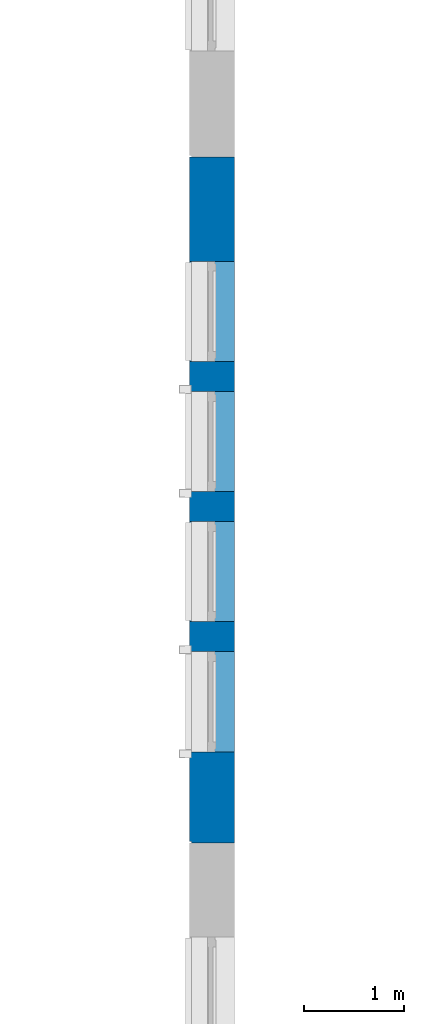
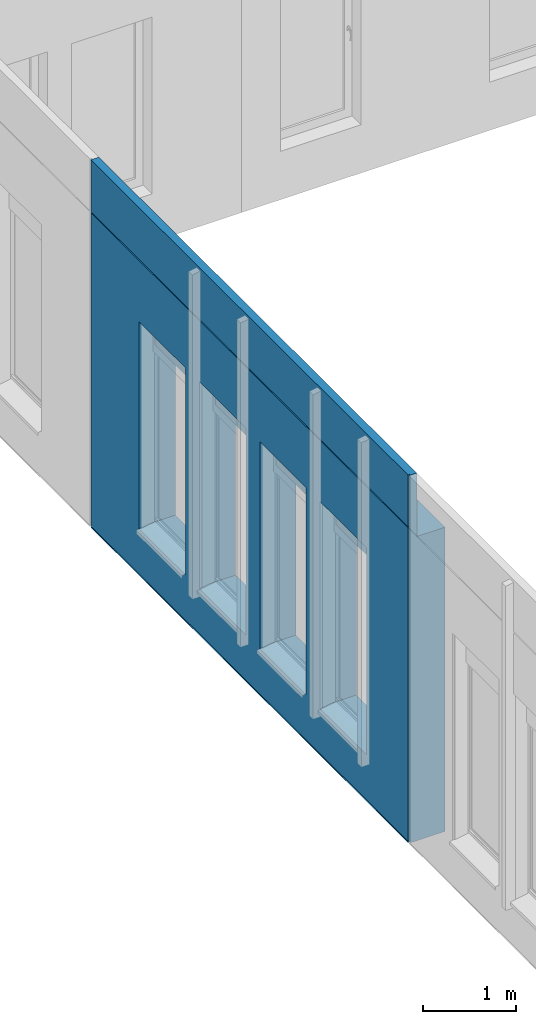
# One storey, part 9 of 33: 1 wall, 7 openings.
"""IFC2X3 building model written with IfcOpenShell, lengths in millimetres."""

import ifcopenshell
import ifcopenshell.guid

model = None  # the IFC model being written
_history = None  # IfcOwnerHistory: only IFC2X3 demands one
_inside = {}  # id of a spatial element -> (the spatial element, [elements in it])
_under = {}  # id of a project, library or spatial element -> (it, [spatial elements below it])
_declared = {}  # id of a project -> (the project, [libraries it declares])
_typed = {}  # id of a type object -> (the type object, [elements of that type])
_made_of = {}  # id of a material, layer set ... -> (it, [elements and type objects made of it])


def new_model(schema):
    """Start an empty IFC model of exactly this schema.

    Asked for "IFC4X3", IfcOpenShell would pick the latest addendum, in which some entities
    have other attributes; the version numbers below select the first issue.
    IFC2X3 requires an IfcOwnerHistory on every rooted entity: one is made here for all.
    """
    global model, _history
    if schema == "IFC4X3":
        model = ifcopenshell.file(schema_version=(4, 3, 0, 0))
    else:
        model = ifcopenshell.file(schema=schema)
    _inside.clear()
    _under.clear()
    _declared.clear()
    _typed.clear()
    _made_of.clear()
    _history = None
    if model.schema == "IFC2X3":
        org = make("IfcOrganization", Name="unknown")
        user = make(
            "IfcPersonAndOrganization",
            ThePerson=make("IfcPerson", FamilyName="unknown"),
            TheOrganization=org,
        )
        app = make(
            "IfcApplication",
            ApplicationDeveloper=org,
            Version="unknown",
            ApplicationFullName="unknown",
            ApplicationIdentifier="unknown",
        )
        _history = make(
            "IfcOwnerHistory",
            OwningUser=user,
            OwningApplication=app,
            ChangeAction="ADDED",
            CreationDate=0,
        )
    return model


def make(cls, **values):
    """One entity of the class cls with the attributes given. An attribute that is None is left unset."""
    return model.create_entity(
        cls, **{name: value for name, value in values.items() if value is not None}
    )


def entity(cls, *values):
    """Any entity or typed value of the class cls, its attributes in the order of the schema. None: left unset."""
    e = model.create_entity(cls)
    for i, value in enumerate(values):
        if value is not None:
            e[i] = value
    return e


def rooted(cls, **values):
    """An entity with a GlobalId (a new one), such as an element, a storey or a relation."""
    return make(cls, GlobalId=ifcopenshell.guid.new(), OwnerHistory=_history, **values)


def si_unit(unit_type, name, prefix=None):
    """IfcSIUnit, for example si_unit("LENGTHUNIT", "METRE", prefix="MILLI")."""
    return make("IfcSIUnit", UnitType=unit_type, Prefix=prefix, Name=name)


def converted_unit(unit_type, name, factor, base, dimensions=None, offset=None):
    """IfcConversionBasedUnit, such as the inch: factor (a typed value) times the base unit."""
    return make(
        "IfcConversionBasedUnit"
        if offset is None
        else "IfcConversionBasedUnitWithOffset",
        ConversionOffset=offset,
        Dimensions=None
        if dimensions is None
        else entity("IfcDimensionalExponents", *dimensions),
        UnitType=unit_type,
        Name=name,
        ConversionFactor=make(
            "IfcMeasureWithUnit", ValueComponent=factor, UnitComponent=base
        ),
    )


def derived_unit(unit_type, elements):
    """IfcDerivedUnit: a product of units, each with its exponent."""
    return make(
        "IfcDerivedUnit",
        Elements=[
            make("IfcDerivedUnitElement", Unit=unit, Exponent=power)
            for unit, power in elements
        ],
        UnitType=unit_type,
    )


def assignment(units):
    """IfcUnitAssignment: the units of a project."""
    return None if units is None else make("IfcUnitAssignment", Units=units)


def point(xyz):
    """IfcCartesianPoint."""
    return None if xyz is None else make("IfcCartesianPoint", Coordinates=xyz)


def direction(xyz):
    """IfcDirection."""
    return None if xyz is None else make("IfcDirection", DirectionRatios=xyz)


def frame(location, z_axis=None, x_axis=None):
    """IfcAxis2Placement3D, a coordinate frame: its origin and axes. An axis left out is left unset."""
    return make(
        "IfcAxis2Placement3D",
        Location=point(location),
        Axis=direction(z_axis),
        RefDirection=direction(x_axis),
    )


def frame_2d(location, x_axis=None):
    """IfcAxis2Placement2D, a coordinate frame in the plane: its origin and x axis."""
    return make(
        "IfcAxis2Placement2D", Location=point(location), RefDirection=direction(x_axis)
    )


def origin():
    """The frame at (0, 0, 0) with its axes left unset."""
    return frame((0.0, 0.0, 0.0))


def place(relative_to, where):
    """IfcLocalPlacement: puts the frame where relative to a parent placement (None: the world)."""
    return make(
        "IfcLocalPlacement", PlacementRelTo=relative_to, RelativePlacement=where
    )


def context(
    kind, dimensions, precision=None, world=None, true_north=None, identifier=None
):
    """IfcGeometricRepresentationContext, for example the 3D "Model" context."""
    return make(
        "IfcGeometricRepresentationContext",
        ContextIdentifier=identifier,
        ContextType=kind,
        CoordinateSpaceDimension=dimensions,
        Precision=precision,
        WorldCoordinateSystem=world,
        TrueNorth=true_north,
    )


def subcontext(parent, identifier, kind, view, scale=None):
    """IfcGeometricRepresentationSubContext, for example "Body" below "Model"."""
    return make(
        "IfcGeometricRepresentationSubContext",
        ContextIdentifier=identifier,
        ContextType=kind,
        ParentContext=parent,
        TargetScale=scale,
        TargetView=view,
    )


def project(units=None, contexts=None):
    """IfcProject with its units and contexts."""
    return rooted(
        "IfcProject",
        Name="project",
        RepresentationContexts=contexts,
        UnitsInContext=assignment(units),
    )


def spatial(cls, under=None, at=None, **own):
    """A site, building, storey or space (cls), placed at a placement, below another one or the project."""
    s = rooted(cls, ObjectPlacement=at, **own)
    if under is not None:
        _under.setdefault(under.id(), (under, []))[1].append(s)
    return s


def polyline(points):
    """IfcPolyline through the points."""
    return make("IfcPolyline", Points=[point(p) for p in points])


def profile(cls, at=None, kind="AREA", **sizes):
    """A parametric profile (cls). Its sizes go by their IFC names, for example OverallWidth=200.0."""
    return make(cls, ProfileType=kind, Position=at, **sizes)


def rectangle(**sizes):
    """IfcRectangleProfileDef."""
    return profile("IfcRectangleProfileDef", **sizes)


def extrude(swept, where, along, depth):
    """IfcExtrudedAreaSolid: the profile swept, set in the frame where, extruded along a direction by depth."""
    return make(
        "IfcExtrudedAreaSolid",
        SweptArea=swept,
        Position=where,
        ExtrudedDirection=direction(along),
        Depth=depth,
    )


def clip(a, b, op="DIFFERENCE"):
    """IfcBooleanClippingResult: the solid a cut by the half space b."""
    return make(
        "IfcBooleanClippingResult", Operator=op, FirstOperand=a, SecondOperand=b
    )


def bounded_halfspace(plane, agree, where, boundary):
    """IfcPolygonalBoundedHalfSpace: a half space limited to a polygon's prism."""
    return make(
        "IfcPolygonalBoundedHalfSpace",
        BaseSurface=make("IfcPlane", Position=plane),
        AgreementFlag=agree,
        Position=where,
        PolygonalBoundary=boundary,
    )


def faces_of(points, faces, orient=None, outer=None):
    """IfcFace entities. A face is a list of loops; a loop is a list of indices into points, from 0.

    orient and outer hold one flag for each loop. By default every Orientation is true, the
    first loop of a face is its IfcFaceOuterBound and the others are IfcFaceBound.
    """
    made = []
    for i, loops in enumerate(faces):
        bounds = []
        for j, loop in enumerate(loops):
            is_outer = j == 0 if outer is None else outer[i][j]
            bounds.append(
                make(
                    "IfcFaceOuterBound" if is_outer else "IfcFaceBound",
                    Bound=make("IfcPolyLoop", Polygon=[points[k] for k in loop]),
                    Orientation=True if orient is None else orient[i][j],
                )
            )
        made.append(make("IfcFace", Bounds=bounds))
    return made


def faceted_brep(points, faces, orient=None, outer=None, voids=None):
    """IfcFacetedBrep: a solid bounded by flat faces; with voids (closed shells), ...WithVoids."""
    shared = [point(p) for p in points]
    hull = make("IfcClosedShell", CfsFaces=faces_of(shared, faces, orient, outer))
    if voids is None:
        return make("IfcFacetedBrep", Outer=hull)
    return make(
        "IfcFacetedBrepWithVoids",
        Outer=hull,
        Voids=[
            make(cls, CfsFaces=faces_of(shared, fs, o, b)) for cls, fs, o, b in voids
        ],
    )


def shape(context_of_items, identifier, shape_type, items):
    """IfcShapeRepresentation: the items that make up one representation, for example the "Body"."""
    return make(
        "IfcShapeRepresentation",
        ContextOfItems=context_of_items,
        RepresentationIdentifier=identifier,
        RepresentationType=shape_type,
        Items=items,
    )


def material(Name=None, Category=None):
    """IfcMaterial."""
    return make("IfcMaterial", Name=Name, Category=Category)


def layer(
    of_material, thickness, ventilated=None, Name=None, Category=None, Priority=None
):
    """IfcMaterialLayer: one layer of a wall or slab, of a material (None: an air gap)."""
    return make(
        "IfcMaterialLayer",
        Material=of_material,
        LayerThickness=thickness,
        IsVentilated=ventilated,
        Name=Name,
        Category=Category,
        Priority=Priority,
    )


def layer_set(layers, Name=None):
    """IfcMaterialLayerSet."""
    return make("IfcMaterialLayerSet", MaterialLayers=layers, LayerSetName=Name)


def layer_usage(for_layer_set, set_direction, sense, offset, extent=None):
    """IfcMaterialLayerSetUsage: how a layer set lies in its element."""
    return make(
        "IfcMaterialLayerSetUsage",
        ForLayerSet=for_layer_set,
        LayerSetDirection=set_direction,
        DirectionSense=sense,
        OffsetFromReferenceLine=offset,
        ReferenceExtent=extent,
    )


def made_of(thing, what):
    """Note that an element or type object is made of a material, layer set ...; save() writes the relation."""
    if what is not None:
        _made_of.setdefault(what.id(), (what, []))[1].append(thing)
    return thing


def type_object(cls, material=None, **own):
    """A type object (cls), such as IfcWallType, which elements share."""
    return made_of(rooted(cls, **own), material)


def element(
    cls,
    number,
    at=None,
    inside=None,
    cuts=None,
    type_object=None,
    material=None,
    context=None,
    identifier="Body",
    shape_type=None,
    held_by="IfcProductDefinitionShape",
    body=None,
    shapes=None,
    **own,
):
    """One element of the class cls, such as IfcWall. Its Tag is "e" and its number.

    at: its placement. inside: the storey or other place that contains it. cuts: it is an
    opening in that element (IfcRelVoidsElement). A single representation is given by context,
    identifier, shape_type and body (its items); several are given by shapes. held_by: the class
    of the entity that holds the representations. save() writes the other relations.
    """
    e = rooted(cls, Tag="e%d" % number, ObjectPlacement=at, **own)
    if body is not None:
        shapes = [shape(context, identifier, shape_type, body)]
    if shapes is not None:
        e.Representation = make(held_by, Representations=shapes)
    if inside is not None:
        _inside.setdefault(inside.id(), (inside, []))[1].append(e)
    if cuts is not None:
        rooted(
            "IfcRelVoidsElement", RelatingBuildingElement=cuts, RelatedOpeningElement=e
        )
    if type_object is not None:
        _typed.setdefault(type_object.id(), (type_object, []))[1].append(e)
    return made_of(e, material)


def aggregate(whole, parts):
    """IfcRelAggregates: a whole, such as a stair, and the parts it consists of."""
    return rooted("IfcRelAggregates", RelatingObject=whole, RelatedObjects=parts)


def save(model, path):
    """Write the relations noted so far, then the file.

    IfcRelAggregates (storeys below a building ...), IfcRelContainedInSpatialStructure (elements
    in a storey), IfcRelDefinesByType, IfcRelAssociatesMaterial and IfcRelDeclares: one each for
    every whole, place, type object, material and project.
    """
    for whole, parts in _under.values():
        aggregate(whole, parts)
    for where, things in _inside.values():
        rooted(
            "IfcRelContainedInSpatialStructure",
            RelatedElements=things,
            RelatingStructure=where,
        )
    for kind, things in _typed.values():
        rooted("IfcRelDefinesByType", RelatedObjects=things, RelatingType=kind)
    for what, things in _made_of.values():
        rooted("IfcRelAssociatesMaterial", RelatedObjects=things, RelatingMaterial=what)
    for by, libraries in _declared.values():
        rooted("IfcRelDeclares", RelatingContext=by, RelatedDefinitions=libraries)
    model.write(path)


model = new_model("IFC2X3")

# Units and contexts
model_context = context("Model", 3, precision=0.01, world=origin(), true_north=direction((6.12303176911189e-17, 1.0)))
body_context = subcontext(model_context, "Body", "Model", "MODEL_VIEW")
ifc_project = project(units=[si_unit("LENGTHUNIT", "METRE", prefix="MILLI"), si_unit("AREAUNIT", "SQUARE_METRE"), si_unit("VOLUMEUNIT", "CUBIC_METRE"), converted_unit("PLANEANGLEUNIT", "DEGREE", entity("IfcRatioMeasure", 0.0174532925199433), si_unit("PLANEANGLEUNIT", "RADIAN"), dimensions=[0, 0, 0, 0, 0, 0, 0]), si_unit("MASSUNIT", "GRAM", prefix="KILO"), derived_unit("MASSDENSITYUNIT", [(si_unit("MASSUNIT", "GRAM", prefix="KILO"), 1), (si_unit("LENGTHUNIT", "METRE"), -3)]), si_unit("TIMEUNIT", "SECOND"), si_unit("FREQUENCYUNIT", "HERTZ"), si_unit("THERMODYNAMICTEMPERATUREUNIT", "DEGREE_CELSIUS"), derived_unit("THERMALTRANSMITTANCEUNIT", [(si_unit("MASSUNIT", "GRAM", prefix="KILO"), 1), (si_unit("THERMODYNAMICTEMPERATUREUNIT", "KELVIN"), -1), (si_unit("TIMEUNIT", "SECOND"), -3)]), derived_unit("VOLUMETRICFLOWRATEUNIT", [(si_unit("LENGTHUNIT", "METRE"), 3), (si_unit("TIMEUNIT", "SECOND"), -1)]), si_unit("ELECTRICCURRENTUNIT", "AMPERE"), si_unit("ELECTRICVOLTAGEUNIT", "VOLT"), si_unit("POWERUNIT", "WATT"), si_unit("FORCEUNIT", "NEWTON", prefix="KILO"), si_unit("ILLUMINANCEUNIT", "LUX"), si_unit("LUMINOUSFLUXUNIT", "LUMEN"), si_unit("LUMINOUSINTENSITYUNIT", "CANDELA"), derived_unit("USERDEFINED", [(si_unit("MASSUNIT", "GRAM", prefix="KILO"), -1), (si_unit("LENGTHUNIT", "METRE"), -2), (si_unit("TIMEUNIT", "SECOND"), 3), (si_unit("LUMINOUSFLUXUNIT", "LUMEN"), 1)]), derived_unit("LINEARVELOCITYUNIT", [(si_unit("LENGTHUNIT", "METRE"), 1), (si_unit("TIMEUNIT", "SECOND"), -1)]), si_unit("PRESSUREUNIT", "PASCAL"), derived_unit("USERDEFINED", [(si_unit("LENGTHUNIT", "METRE"), -2), (si_unit("MASSUNIT", "GRAM", prefix="KILO"), 1), (si_unit("TIMEUNIT", "SECOND"), -2)])], contexts=[model_context])

# Site, building, storey
site_placement = place(None, origin())
site = spatial("IfcSite", under=ifc_project, at=site_placement, Name="Default", CompositionType="ELEMENT")
building_placement = place(site_placement, origin())
building = spatial("IfcBuilding", under=site, at=building_placement, CompositionType="ELEMENT")
storey_placement = place(building_placement, frame((0.0, 0.0, 4000.0)))
storey = spatial("IfcBuildingStorey", under=building, at=storey_placement, Name="2. KORRUS", CompositionType="ELEMENT", Elevation=4000.0)

# Wall, openings
ifc_material_1 = material(Name="RECKLI 1 173 THUR by Polantis 2016-toon3")
ifc_layer_1 = layer(ifc_material_1, 100.0)
ifc_material_2 = material(Name="Soojusisolatsioon EPS")
ifc_layer_2 = layer(ifc_material_2, 200.0)
ifc_material_3 = material(Name="r/b")
ifc_layer_3 = layer(ifc_material_3, 150.0)
ifc_layer_set = layer_set([ifc_layer_1, ifc_layer_2, ifc_layer_3], Name="Basic Wall:VS-1_toon-b")
ifc_layer_usage = layer_usage(ifc_layer_set, "AXIS2", "POSITIVE", -225.0)
wall_type = type_object("IfcWallType", Name="Basic Wall:VS-1_toon-b", PredefinedType="STANDARD", material=ifc_layer_set)
wall_placement = place(storey_placement, frame((-225.0, 23290.0, -135.0), z_axis=(0.0, 0.0, 1.0), x_axis=(0.0, -1.0, 0.0)))
wall = element("IfcWallStandardCase", 1, at=wall_placement, inside=storey, type_object=wall_type, material=ifc_layer_usage, Name="Basic Wall:VS-1_toon-b", ObjectType="Basic Wall:VS-1_toon-b", context=body_context, shape_type="Clipping", body=[
    clip(extrude(rectangle(XDim=6849.99930276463, YDim=450.0, at=frame_2d((3424.99965138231, 0.0), x_axis=(-1.0, 0.0))), origin(), (0.0, 0.0, 1.0), 4835.0), bounded_halfspace(frame((6849.99930276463, 225.0, 4000.0), z_axis=(0.0, 0.0, 1.0), x_axis=(0.0, 1.0, 0.0)), False, frame((6849.99930276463, 225.0, 4000.0)), polyline([(0.0, 0.0), (-6849.99930276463, 0.0), (-6849.99930276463, -350.0), (0.0, -350.0), (0.0, 0.0)]))),
])
opening_1_placement = place(wall_placement, origin())
element("IfcOpeningElement", 2, at=opening_1_placement, cuts=wall, Name="Basic Wall:VS-1_toon-b", ObjectType="Recess", context=body_context, shape_type="SweptSolid", body=[
    extrude(rectangle(XDim=4835.0, YDim=16.0000000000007, at=frame_2d((2.27373675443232e-13, 0.0), x_axis=(1.0, 0.0))), frame((6842.05222852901, -225.0, 2417.5), z_axis=(0.0, 1.0, 0.0), x_axis=(0.0, 0.0, -1.0)), (0.0, 0.0, 1.0), 20.0),
])
opening_2_placement = place(wall_placement, frame((23740.0, -225.0, 4.0)))
element("IfcOpeningElement", 3, at=opening_2_placement, cuts=wall, Name="Basic Wall:VS-1_toon-b", ObjectType="Opening", context=body_context, shape_type="Brep", body=[
    faceted_brep([(-20.0, 11850.0, 16.0), (0.0, 11850.0, 16.0), (0.0, 11850.0, 0.0), (-20.0, 11850.0, 0.0), (-20.0, 4260.0, 16.0), (-20.0, 4260.0, 0.0), (0.0, 4260.0, 0.0), (0.0, 4260.0, 16.0)], [[[0, 1, 2, 3]], [[4, 5, 6, 7]], [[1, 0, 4, 7]], [[2, 1, 7, 6]], [[3, 2, 6, 5]], [[0, 3, 5, 4]]]),
    faceted_brep([(-28480.0, 20.0, 16.0), (-28480.0, 20.0, 0.0), (-28500.0, 0.0, 0.0), (-28500.0, 0.0, 16.0), (-23740.0, 20.0, 16.0), (-23740.0, 0.0, 16.0), (-23740.0, 0.0, 0.0), (-23740.0, 20.0, 0.0)], [[[0, 1, 2, 3]], [[4, 5, 6, 7]], [[1, 0, 4, 7]], [[2, 1, 7, 6]], [[3, 2, 6, 5]], [[0, 3, 5, 4]]]),
    faceted_brep([(-22380.0517807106, 10080.0, 16.0), (-22400.0517807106, 10100.0, 16.0), (-22400.0517807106, 10100.0, 0.0), (-22380.0517807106, 10080.0, 0.0), (-22380.0517807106, 15330.3475962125, 16.0), (-22380.0517807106, 15330.3475962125, 0.0), (-22400.0517807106, 15330.3475962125, 0.0), (-22400.0517807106, 15330.3475962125, 16.0)], [[[0, 1, 2, 3]], [[4, 5, 6, 7]], [[1, 0, 4, 7]], [[2, 1, 7, 6]], [[3, 2, 6, 5]], [[0, 3, 5, 4]]]),
    faceted_brep([(-28480.0, 20.0, 16.0), (-28500.0, 0.0, 16.0), (-28500.0, 0.0, 0.0), (-28480.0, 20.0, 0.0), (-28480.0, 4360.0, 16.0), (-28480.0, 4360.0, 0.0), (-28500.0, 4360.0, 0.0), (-28500.0, 4360.0, 16.0)], [[[0, 1, 2, 3]], [[4, 5, 6, 7]], [[1, 0, 4, 7]], [[2, 1, 7, 6]], [[3, 2, 6, 5]], [[0, 3, 5, 4]]]),
    faceted_brep([(-20.0, 40380.0, 16.0), (0.0, 40400.0, 16.0), (0.0, 40400.0, 0.0), (-20.0, 40380.0, 0.0), (-20.0, 35250.0, 16.0), (-20.0, 35250.0, 0.0), (0.0, 35250.0, 0.0), (0.0, 35250.0, 16.0)], [[[0, 1, 2, 3]], [[4, 5, 6, 7]], [[1, 0, 4, 7]], [[2, 1, 7, 6]], [[3, 2, 6, 5]], [[0, 3, 5, 4]]]),
    faceted_brep([(-22380.0517807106, 34420.1035702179, 16.0), (-22400.0517807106, 34420.1035702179, 16.0), (-22400.0517807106, 34420.1035702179, 0.0), (-22380.0517807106, 34420.1035702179, 0.0), (-22380.0517807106, 40380.0, 16.0), (-22380.0517807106, 40380.0, 0.0), (-22400.0517807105, 40400.0, 0.0), (-22400.0517807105, 40400.0, 16.0)], [[[0, 1, 2, 3]], [[4, 5, 6, 7]], [[1, 0, 4, 7]], [[2, 1, 7, 6]], [[3, 2, 6, 5]], [[0, 3, 5, 4]]]),
    faceted_brep([(-22380.0517807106, 29113.2161487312, 16.0), (-22400.0517807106, 29113.2161487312, 16.0), (-22400.0517807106, 29113.2161487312, 0.0), (-22380.0517807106, 29113.2161487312, 0.0), (-22380.0517807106, 34420.1035702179, 16.0), (-22380.0517807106, 34420.1035702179, 0.0), (-22400.0517807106, 34420.1035702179, 0.0), (-22400.0517807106, 34420.1035702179, 16.0)], [[[0, 1, 2, 3]], [[4, 5, 6, 7]], [[1, 0, 4, 7]], [[2, 1, 7, 6]], [[3, 2, 6, 5]], [[0, 3, 5, 4]]]),
    faceted_brep([(-28480.0, 10080.0, 16.0), (-28500.0, 10100.0, 16.0), (-28500.0, 10100.0, 0.0), (-28480.0, 10080.0, 0.0), (-22380.0517807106, 10080.0, 16.0), (-22380.0517807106, 10080.0, 0.0), (-22400.0517807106, 10100.0, 0.0), (-22400.0517807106, 10100.0, 16.0)], [[[0, 1, 2, 3]], [[4, 5, 6, 7]], [[1, 0, 4, 7]], [[2, 1, 7, 6]], [[3, 2, 6, 5]], [[0, 3, 5, 4]]]),
    faceted_brep([(-20.0, 4260.0, 16.0), (0.0, 4260.0, 16.0), (0.0, 4260.0, 0.0), (-20.0, 4260.0, 0.0), (-20.0, 0.0, 16.0), (-20.0, 0.0, 0.0), (0.0, 0.0, 0.0), (0.0, 0.0, 16.0)], [[[0, 1, 2, 3]], [[4, 5, 6, 7]], [[1, 0, 4, 7]], [[2, 1, 7, 6]], [[3, 2, 6, 5]], [[0, 3, 5, 4]]]),
    faceted_brep([(-4865.0, 40380.0, 16.0), (-4865.0, 40400.0, 16.0), (-4865.0, 40400.0, 0.0), (-4865.0, 40380.0, 0.0), (-20.0, 40380.0, 16.0), (-20.0, 40380.0, 0.0), (0.0, 40400.0, 0.0), (0.0, 40400.0, 16.0)], [[[0, 1, 2, 3]], [[4, 5, 6, 7]], [[1, 0, 4, 7]], [[2, 1, 7, 6]], [[3, 2, 6, 5]], [[0, 3, 5, 4]]]),
    faceted_brep([(-9093.33000000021, 40380.0, 16.0), (-9093.33000000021, 40400.0, 16.0), (-9093.33000000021, 40400.0, 0.0), (-9093.33000000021, 40380.0, 0.0), (-4865.0, 40380.0, 16.0), (-4865.0, 40380.0, 0.0), (-4865.0, 40400.0, 0.0), (-4865.0, 40400.0, 16.0)], [[[0, 1, 2, 3]], [[4, 5, 6, 7]], [[1, 0, 4, 7]], [[2, 1, 7, 6]], [[3, 2, 6, 5]], [[0, 3, 5, 4]]]),
    faceted_brep([(-13210.0, 40380.0, 16.0), (-13210.0, 40400.0, 16.0), (-13210.0, 40400.0, 0.0), (-13210.0, 40380.0, 0.0), (-9093.33000000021, 40380.0, 16.0), (-9093.33000000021, 40380.0, 0.0), (-9093.33000000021, 40400.0, 0.0), (-9093.33000000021, 40400.0, 16.0)], [[[0, 1, 2, 3]], [[4, 5, 6, 7]], [[1, 0, 4, 7]], [[2, 1, 7, 6]], [[3, 2, 6, 5]], [[0, 3, 5, 4]]]),
    faceted_brep([(-16240.0, 40380.0, 16.0), (-16240.0, 40400.0, 16.0), (-16240.0, 40400.0, 0.0), (-16240.0, 40380.0, 0.0), (-13210.0, 40380.0, 16.0), (-13210.0, 40380.0, 0.0), (-13210.0, 40400.0, 0.0), (-13210.0, 40400.0, 16.0)], [[[0, 1, 2, 3]], [[4, 5, 6, 7]], [[1, 0, 4, 7]], [[2, 1, 7, 6]], [[3, 2, 6, 5]], [[0, 3, 5, 4]]]),
    faceted_brep([(-22380.0517807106, 40380.0, 16.0), (-22400.0517807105, 40400.0, 16.0), (-22400.0517807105, 40400.0, 0.0), (-22380.0517807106, 40380.0, 0.0), (-16240.0, 40380.0, 16.0), (-16240.0, 40380.0, 0.0), (-16240.0, 40400.0, 0.0), (-16240.0, 40400.0, 16.0)], [[[0, 1, 2, 3]], [[4, 5, 6, 7]], [[1, 0, 4, 7]], [[2, 1, 7, 6]], [[3, 2, 6, 5]], [[0, 3, 5, 4]]]),
    faceted_brep([(-22380.0517807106, 22535.0, 16.0), (-22400.0517807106, 22535.0, 16.0), (-22400.0517807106, 22535.0, 0.0), (-22380.0517807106, 22535.0, 0.0), (-22380.0517807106, 29113.2161487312, 16.0), (-22380.0517807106, 29113.2161487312, 0.0), (-22400.0517807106, 29113.2161487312, 0.0), (-22400.0517807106, 29113.2161487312, 16.0)], [[[0, 1, 2, 3]], [[4, 5, 6, 7]], [[1, 0, 4, 7]], [[2, 1, 7, 6]], [[3, 2, 6, 5]], [[0, 3, 5, 4]]]),
    faceted_brep([(-22380.0517807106, 18703.3528910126, 16.0), (-22400.0517807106, 18703.3528910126, 16.0), (-22400.0517807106, 18703.3528910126, 0.0), (-22380.0517807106, 18703.3528910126, 0.0), (-22380.0517807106, 22535.0, 16.0), (-22380.0517807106, 22535.0, 0.0), (-22400.0517807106, 22535.0, 0.0), (-22400.0517807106, 22535.0, 16.0)], [[[0, 1, 2, 3]], [[4, 5, 6, 7]], [[1, 0, 4, 7]], [[2, 1, 7, 6]], [[3, 2, 6, 5]], [[0, 3, 5, 4]]]),
    faceted_brep([(-22380.0517807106, 15330.3475962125, 16.0), (-22400.0517807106, 15330.3475962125, 16.0), (-22400.0517807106, 15330.3475962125, 0.0), (-22380.0517807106, 15330.3475962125, 0.0), (-22380.0517807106, 18703.3528910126, 16.0), (-22380.0517807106, 18703.3528910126, 0.0), (-22400.0517807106, 18703.3528910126, 0.0), (-22400.0517807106, 18703.3528910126, 16.0)], [[[0, 1, 2, 3]], [[4, 5, 6, 7]], [[1, 0, 4, 7]], [[2, 1, 7, 6]], [[3, 2, 6, 5]], [[0, 3, 5, 4]]]),
    faceted_brep([(-28480.0, 4360.0, 16.0), (-28500.0, 4360.0, 16.0), (-28500.0, 4360.0, 0.0), (-28480.0, 4360.0, 0.0), (-28480.0, 10080.0, 16.0), (-28480.0, 10080.0, 0.0), (-28500.0, 10100.0, 0.0), (-28500.0, 10100.0, 16.0)], [[[0, 1, 2, 3]], [[4, 5, 6, 7]], [[1, 0, 4, 7]], [[2, 1, 7, 6]], [[3, 2, 6, 5]], [[0, 3, 5, 4]]]),
    faceted_brep([(-23740.0, 20.0, 16.0), (-23740.0, 20.0, 0.0), (-23740.0, 0.0, 0.0), (-23740.0, 0.0, 16.0), (-16890.0006972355, 20.0, 16.0), (-16890.0006972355, 0.0, 16.0), (-16890.0006972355, 0.0, 0.0), (-16890.0006972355, 20.0, 0.0)], [[[0, 1, 2, 3]], [[4, 5, 6, 7]], [[1, 0, 4, 7]], [[2, 1, 7, 6]], [[3, 2, 6, 5]], [[0, 3, 5, 4]]]),
    faceted_brep([(-16890.0006972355, 20.0, 16.0), (-16890.0006972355, 20.0, 0.0), (-16890.0006972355, 0.0, 0.0), (-16890.0006972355, 0.0, 16.0), (-13460.0, 20.0, 16.0), (-13460.0, 0.0, 16.0), (-13460.0, 0.0, 0.0), (-13460.0, 20.0, 0.0)], [[[0, 1, 2, 3]], [[4, 5, 6, 7]], [[1, 0, 4, 7]], [[2, 1, 7, 6]], [[3, 2, 6, 5]], [[0, 3, 5, 4]]]),
])
opening_3_placement = place(wall_placement, origin())
element("IfcOpeningElement", 4, at=opening_3_placement, cuts=wall, Name="Basic Wall:VS-1_toon-b", ObjectType="Recess", context=body_context, shape_type="SweptSolid", body=[
    extrude(rectangle(XDim=15.9999999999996, YDim=20.0, at=frame_2d((-3.37507799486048e-14, 5.40900657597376e-13), x_axis=(0.0, 1.0))), frame((23730.0, 4035.0, 4147.0), z_axis=(0.0, 1.0, 0.0), x_axis=(1.0, 0.0, 0.0)), (0.0, 0.0, 1.0), 7590.0),
    extrude(rectangle(XDim=15.9999999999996, YDim=4660.0, at=frame_2d((-2.27373675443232e-12, 5.40900657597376e-13), x_axis=(0.0, 1.0))), frame((-2330.0, -225.0, 4147.0), z_axis=(0.0, 1.0, 0.0), x_axis=(1.0, 0.0, 0.0)), (0.0, 0.0, 1.0), 20.0000000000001),
    extrude(rectangle(XDim=15.9999999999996, YDim=19.9999999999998, at=frame_2d((5.40900657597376e-13, -2.16626716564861e-12), x_axis=(1.0, 0.0))), frame((1349.94821928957, 9875.0, 4147.0), z_axis=(0.0, 1.0, 0.0), x_axis=(0.0, 0.0, -1.0)), (0.0, 0.0, 1.0), 5230.3475962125),
    extrude(rectangle(XDim=15.9999999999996, YDim=19.9999999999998, at=frame_2d((5.40900657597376e-13, -2.16626716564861e-12), x_axis=(1.0, 0.0))), frame((-4750.0, -225.0, 4147.0), z_axis=(0.0, 1.0, 0.0), x_axis=(0.0, 0.0, -1.0)), (0.0, 0.0, 1.0), 4360.0),
    extrude(rectangle(XDim=15.9999999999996, YDim=20.0, at=frame_2d((-3.37507799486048e-14, -5.40900657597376e-13), x_axis=(0.0, 1.0))), frame((23730.0, 35025.0, 4147.0), z_axis=(0.0, 1.0, 0.0), x_axis=(1.0, 0.0, 0.0)), (0.0, 0.0, 1.0), 5050.0),
    extrude(rectangle(XDim=15.9999999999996, YDim=19.9999999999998, at=frame_2d((5.40900657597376e-13, -2.16626716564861e-12), x_axis=(1.0, 0.0))), frame((1349.9482192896, 34195.1035702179, 4147.0), z_axis=(0.0, 1.0, 0.0), x_axis=(0.0, 0.0, -1.0)), (0.0, 0.0, 1.0), 5979.89642978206),
    extrude(rectangle(XDim=15.9999999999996, YDim=19.9999999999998, at=frame_2d((5.40900657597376e-13, -2.16626716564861e-12), x_axis=(1.0, 0.0))), frame((1349.94821928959, 28888.2161487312, 4147.0), z_axis=(0.0, 1.0, 0.0), x_axis=(0.0, 0.0, -1.0)), (0.0, 0.0, 1.0), 5306.88742148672),
    extrude(rectangle(XDim=15.9999999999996, YDim=6099.94821928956, at=frame_2d((0.0, 0.0), x_axis=(0.0, 1.0))), frame((-1610.02589035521, 9855.0, 4147.0), z_axis=(0.0, 1.0, 0.0), x_axis=(1.0, 0.0, 0.0)), (0.0, 0.0, 1.0), 19.9999999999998),
    extrude(rectangle(XDim=15.9999999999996, YDim=20.0, at=frame_2d((-3.37507799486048e-14, 5.40900657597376e-13), x_axis=(0.0, 1.0))), frame((23730.0, -125.0, 4147.0), z_axis=(0.0, 1.0, 0.0), x_axis=(1.0, 0.0, 0.0)), (0.0, 0.0, 1.0), 4160.00000000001),
    extrude(rectangle(XDim=15.9999999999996, YDim=4865.0, at=frame_2d((0.0, 5.40900657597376e-13), x_axis=(0.0, 1.0))), frame((21307.5000000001, 40155.0, 4147.0), z_axis=(0.0, 1.0, 0.0), x_axis=(1.0, 0.0, 0.0)), (0.0, 0.0, 1.0), 20.0000000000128),
    extrude(rectangle(XDim=15.9999999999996, YDim=4228.33000000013, at=frame_2d((0.0, 0.0), x_axis=(0.0, 1.0))), frame((16760.835, 40155.0, 4147.0), z_axis=(0.0, 1.0, 0.0), x_axis=(1.0, 0.0, 0.0)), (0.0, 0.0, 1.0), 20.0000000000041),
    extrude(rectangle(XDim=15.9999999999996, YDim=4236.66999997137, at=frame_2d((1.13686837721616e-12, 0.0), x_axis=(0.0, 1.0))), frame((12528.3350000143, 40155.0, 4147.0), z_axis=(0.0, 1.0, 0.0), x_axis=(1.0, 0.0, 0.0)), (0.0, 0.0, 1.0), 19.9999999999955),
    extrude(rectangle(XDim=15.9999999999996, YDim=2910.00000002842, at=frame_2d((2.1600499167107e-12, 5.40900657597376e-13), x_axis=(0.0, 1.0))), frame((8955.0, 40155.0, 4147.0), z_axis=(0.0, 1.0, 0.0), x_axis=(1.0, 0.0, 0.0)), (0.0, 0.0, 1.0), 20.0000000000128),
    extrude(rectangle(XDim=15.9999999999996, YDim=6060.05178071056, at=frame_2d((0.0, 0.0), x_axis=(0.0, 1.0))), frame((4469.97410964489, 40155.0, 4147.0), z_axis=(0.0, 1.0, 0.0), x_axis=(1.0, 0.0, 0.0)), (0.0, 0.0, 1.0), 19.9999999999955),
    extrude(rectangle(XDim=15.9999999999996, YDim=19.9999999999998, at=frame_2d((5.40900657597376e-13, -2.16626716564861e-12), x_axis=(1.0, 0.0))), frame((1349.94821928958, 18478.3528910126, 4147.0), z_axis=(0.0, 1.0, 0.0), x_axis=(0.0, 0.0, -1.0)), (0.0, 0.0, 1.0), 3831.64710898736),
    extrude(rectangle(XDim=15.9999999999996, YDim=19.9999999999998, at=frame_2d((5.40900657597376e-13, -2.16626716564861e-12), x_axis=(1.0, 0.0))), frame((1349.94821928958, 15105.3475962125, 4147.0), z_axis=(0.0, 1.0, 0.0), x_axis=(0.0, 0.0, -1.0)), (0.0, 0.0, 1.0), 3373.00529480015),
    extrude(rectangle(XDim=15.9999999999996, YDim=19.9999999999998, at=frame_2d((5.40900657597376e-13, 2.16626716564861e-12), x_axis=(1.0, 0.0))), frame((-4750.0, 4135.0, 4147.0), z_axis=(0.0, 1.0, 0.0), x_axis=(0.0, 0.0, -1.0)), (0.0, 0.0, 1.0), 5739.99999999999),
    extrude(rectangle(XDim=15.9999999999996, YDim=6849.99930276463, at=frame_2d((1.13686837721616e-12, 5.40900657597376e-13), x_axis=(0.0, 1.0))), frame((3424.99965138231, -225.0, 4147.0), z_axis=(0.0, 1.0, 0.0), x_axis=(1.0, 0.0, 0.0)), (0.0, 0.0, 1.0), 20.0),
    extrude(rectangle(XDim=15.9999999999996, YDim=3430.00069726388, at=frame_2d((1.02318153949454e-12, 5.40900657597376e-13), x_axis=(0.0, 1.0))), frame((8564.99965139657, -225.0, 4147.0), z_axis=(0.0, 1.0, 0.0), x_axis=(1.0, 0.0, 0.0)), (0.0, 0.0, 1.0), 20.0000000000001),
    extrude(rectangle(XDim=15.9999999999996, YDim=19.9999999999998, at=frame_2d((5.40900657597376e-13, -2.16626716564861e-12), x_axis=(1.0, 0.0))), frame((1349.94821928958, 22310.0, 4147.0), z_axis=(0.0, 1.0, 0.0), x_axis=(0.0, 0.0, -1.0)), (0.0, 0.0, 1.0), 6578.21614873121),
    extrude(rectangle(XDim=15.9999999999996, YDim=20.0, at=frame_2d((-3.37507799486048e-14, 5.40900657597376e-13), x_axis=(0.0, 1.0))), frame((23730.0, 11625.0, 4147.0), z_axis=(0.0, 1.0, 0.0), x_axis=(1.0, 0.0, 0.0)), (0.0, 0.0, 1.0), 4110.00000000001),
    extrude(rectangle(XDim=15.9999999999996, YDim=20.0, at=frame_2d((-3.37507799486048e-14, 5.40900657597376e-13), x_axis=(0.0, 1.0))), frame((23730.0, 15735.0, 4147.0), z_axis=(0.0, 1.0, 0.0), x_axis=(1.0, 0.0, 0.0)), (0.0, 0.0, 1.0), 4600.0),
    extrude(rectangle(XDim=15.9999999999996, YDim=20.0, at=frame_2d((3.37507799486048e-14, 5.40900657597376e-13), x_axis=(0.0, 1.0))), frame((23730.0, 20335.0, 4147.0), z_axis=(0.0, 1.0, 0.0), x_axis=(1.0, 0.0, 0.0)), (0.0, 0.0, 1.0), 4600.0),
    extrude(rectangle(XDim=15.9999999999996, YDim=20.0, at=frame_2d((3.37507799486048e-14, 5.40900657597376e-13), x_axis=(0.0, 1.0))), frame((23730.0, 24935.0, 4147.0), z_axis=(0.0, 1.0, 0.0), x_axis=(1.0, 0.0, 0.0)), (0.0, 0.0, 1.0), 5299.99999999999),
    extrude(rectangle(XDim=15.9999999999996, YDim=20.0, at=frame_2d((-3.37507799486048e-14, 5.40900657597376e-13), x_axis=(0.0, 1.0))), frame((23730.0, 30235.0, 4147.0), z_axis=(0.0, 1.0, 0.0), x_axis=(1.0, 0.0, 0.0)), (0.0, 0.0, 1.0), 4790.0),
    extrude(rectangle(XDim=15.9999999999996, YDim=4724.85920481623, at=frame_2d((6.82121026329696e-13, 5.40900657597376e-13), x_axis=(0.0, 1.0))), frame((12642.4296024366, -225.0, 4147.0), z_axis=(0.0, 1.0, 0.0), x_axis=(1.0, 0.0, 0.0)), (0.0, 0.0, 1.0), 20.0000000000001),
    extrude(rectangle(XDim=15.9999999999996, YDim=8735.1407951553, at=frame_2d((0.0, 5.40900657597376e-13), x_axis=(0.0, 1.0))), frame((19372.4296024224, -225.0, 4147.0), z_axis=(0.0, 1.0, 0.0), x_axis=(1.0, 0.0, 0.0)), (0.0, 0.0, 1.0), 20.0),
])
opening_4_placement = place(wall_placement, frame((4640.00119120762, -225.0, 613.057009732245), z_axis=(0.0, 0.0, 1.0), x_axis=(0.0, 1.0, 0.0)))
element("IfcOpeningElement", 5, at=opening_4_placement, cuts=wall, Name="Basic Wall:VS-1_toon-b", ObjectType="Opening", context=body_context, shape_type="Brep", body=[
    faceted_brep([(450.0, 0.0, 2346.94299026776), (450.0, 0.0, 21.9429902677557), (450.0, 1000.0, 21.9429902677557), (450.0, 1000.0, 2346.94299026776), (0.0, 1000.0, 2721.94299026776), (0.0, 1000.0, 0.0), (0.0, 0.0, 0.0), (0.0, 0.0, 2721.94299026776), (200.0, 0.0, 2346.94299026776), (200.0, 0.0, 2721.94299026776), (124.444881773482, 0.0, 21.9429902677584), (124.444881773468, 1000.0, 21.9429902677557), (200.0, 1000.0, 2721.94299026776), (200.0, 1000.0, 2346.94299026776)], [[[0, 1, 2, 3]], [[4, 5, 6, 7]], [[0, 8, 9, 7, 6, 10, 1]], [[1, 10, 11, 2]], [[2, 11, 5, 4, 12, 13, 3]], [[3, 13, 8, 0]], [[9, 8, 13, 12]], [[12, 4, 7, 9]], [[6, 5, 11, 10]]]),
])
opening_5_placement = place(wall_placement, frame((5940.00119120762, -225.0, 613.057009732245), z_axis=(0.0, 0.0, 1.0), x_axis=(0.0, 1.0, 0.0)))
element("IfcOpeningElement", 6, at=opening_5_placement, cuts=wall, Name="Basic Wall:VS-1_toon-b", ObjectType="Opening", context=body_context, shape_type="Brep", body=[
    faceted_brep([(450.0, 0.0, 2346.94299026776), (450.0, 0.0, 21.9429902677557), (450.0, 1000.0, 21.9429902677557), (450.0, 1000.0, 2346.94299026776), (0.0, 1000.0, 2721.94299026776), (0.0, 1000.0, 0.0), (0.0, 0.0, 0.0), (0.0, 0.0, 2721.94299026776), (200.0, 0.0, 2346.94299026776), (200.0, 0.0, 2721.94299026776), (124.444881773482, 0.0, 21.9429902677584), (124.444881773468, 1000.0, 21.9429902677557), (200.0, 1000.0, 2721.94299026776), (200.0, 1000.0, 2346.94299026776)], [[[0, 1, 2, 3]], [[4, 5, 6, 7]], [[0, 8, 9, 7, 6, 10, 1]], [[1, 10, 11, 2]], [[2, 11, 5, 4, 12, 13, 3]], [[3, 13, 8, 0]], [[9, 8, 13, 12]], [[12, 4, 7, 9]], [[6, 5, 11, 10]]]),
])
opening_6_placement = place(wall_placement, frame((2040.00119120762, -225.0, 613.057009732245), z_axis=(0.0, 0.0, 1.0), x_axis=(0.0, 1.0, 0.0)))
element("IfcOpeningElement", 7, at=opening_6_placement, cuts=wall, Name="Basic Wall:VS-1_toon-b", ObjectType="Opening", context=body_context, shape_type="Brep", body=[
    faceted_brep([(450.0, 0.0, 2346.94299026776), (450.0, 0.0, 21.9429902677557), (450.0, 1000.0, 21.9429902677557), (450.0, 1000.0, 2346.94299026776), (0.0, 1000.0, 2721.94299026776), (0.0, 1000.0, 0.0), (0.0, 0.0, 0.0), (0.0, 0.0, 2721.94299026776), (200.0, 0.0, 2346.94299026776), (200.0, 0.0, 2721.94299026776), (124.444881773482, 0.0, 21.9429902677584), (124.444881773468, 1000.0, 21.9429902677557), (200.0, 1000.0, 2721.94299026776), (200.0, 1000.0, 2346.94299026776)], [[[0, 1, 2, 3]], [[4, 5, 6, 7]], [[0, 8, 9, 7, 6, 10, 1]], [[1, 10, 11, 2]], [[2, 11, 5, 4, 12, 13, 3]], [[3, 13, 8, 0]], [[9, 8, 13, 12]], [[12, 4, 7, 9]], [[6, 5, 11, 10]]]),
])
opening_7_placement = place(wall_placement, frame((3340.00119120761, -225.0, 613.057009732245), z_axis=(0.0, 0.0, 1.0), x_axis=(0.0, 1.0, 0.0)))
element("IfcOpeningElement", 8, at=opening_7_placement, cuts=wall, Name="Basic Wall:VS-1_toon-b", ObjectType="Opening", context=body_context, shape_type="Brep", body=[
    faceted_brep([(450.0, 0.0, 2346.94299026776), (450.0, 0.0, 21.9429902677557), (450.0, 1000.0, 21.9429902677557), (450.0, 1000.0, 2346.94299026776), (0.0, 1000.0, 2721.94299026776), (0.0, 1000.0, 0.0), (0.0, 0.0, 0.0), (0.0, 0.0, 2721.94299026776), (200.0, 0.0, 2346.94299026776), (200.0, 0.0, 2721.94299026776), (124.444881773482, 0.0, 21.9429902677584), (124.444881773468, 1000.0, 21.9429902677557), (200.0, 1000.0, 2721.94299026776), (200.0, 1000.0, 2346.94299026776)], [[[0, 1, 2, 3]], [[4, 5, 6, 7]], [[0, 8, 9, 7, 6, 10, 1]], [[1, 10, 11, 2]], [[2, 11, 5, 4, 12, 13, 3]], [[3, 13, 8, 0]], [[9, 8, 13, 12]], [[12, 4, 7, 9]], [[6, 5, 11, 10]]]),
])

save(model, "model.ifc")
